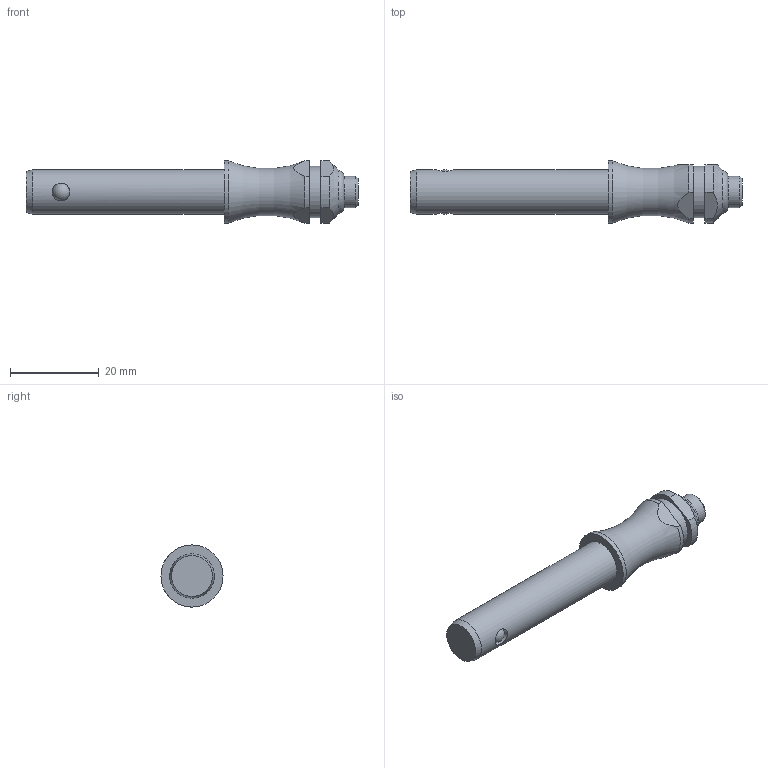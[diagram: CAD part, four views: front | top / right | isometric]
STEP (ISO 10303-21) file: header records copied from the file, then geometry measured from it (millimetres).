
FILE_DESCRIPTION( ( 'STEP AP203' ), '1' );
FILE_NAME( 'C:/Temp/Ganter_Step_05_03_2020/data/3_1/gn113_3/Stainless Steel-Ball lock pin GN 113.3-10-35 (activated).stp', '2020-03-12T08:18:33', ( 'License CC BY-ND 4.0' ), ( 'CADENAS' ), ' ', 'PARTsolutions', ' ' );
FILE_SCHEMA( ( 'CONFIG_CONTROL_DESIGN' ) );
Length unit declared in the file: millimetre
Products named in the file (1): _Stainless Steel-Ball lock pin GN 113.3-10-35 (activated)
Bounding box: 74.75 x 14 x 14 mm (x, y, z)
Volume: 6580.8 mm3; surface area: 2852.1 mm2
Topology: 1 solids, 1 shells, 30 faces, 72 edges, 45 vertices
Faces by surface type: cylinder 12, plane 11, cone 3, torus 2, sphere 2
Full cylindrical faces by diameter (mm): 4 x2, 7 x1, 10 x1, 11.6 x1, 14 x1
Entity records: 988 total; most frequent: CARTESIAN_POINT 341, DIRECTION 130, ORIENTED_EDGE 102, AXIS2_PLACEMENT_3D 56, EDGE_CURVE 51, EDGE_LOOP 46, VERTEX_POINT 39, FACE_OUTER_BOUND 38
